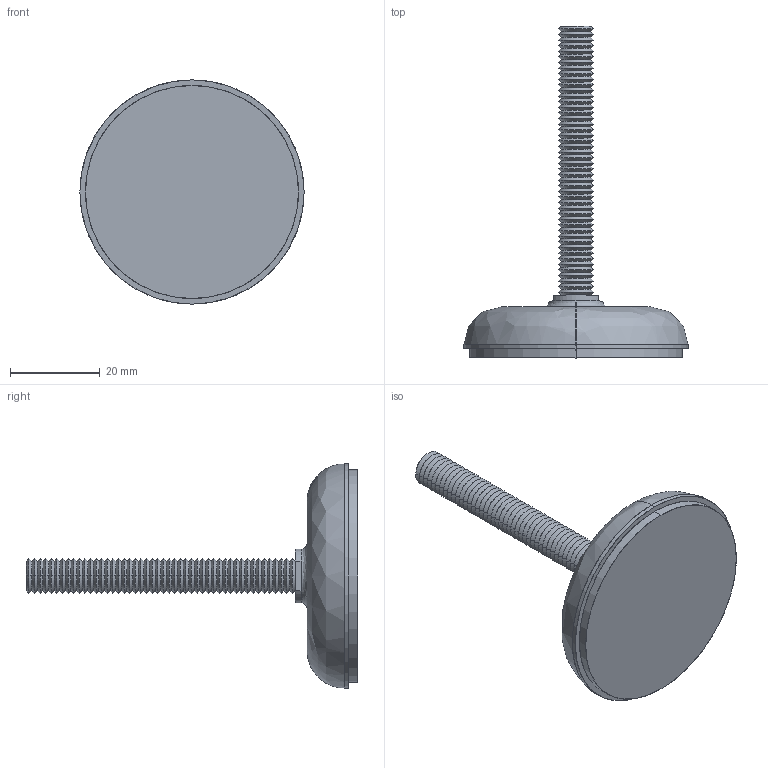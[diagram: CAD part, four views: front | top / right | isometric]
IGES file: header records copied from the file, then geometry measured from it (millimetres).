
Start section: SolidWorks IGES file using analytic representation for surfaces
Global section: file name: C:\Documents and Settings\IANO\Desktop\Temp File\Process pending\EXISTING\34780_v2\34780_v2_20170626_IGES\34780.W0088.igs; native system: SolidWorks 2009; preprocessor: SolidWorks 2009; author: IANO; date: 170626.122241; units: millimetre
Bounding box: 50 x 74 x 50 mm (x, y, z)
Surface area: 16912.9 mm2 (no closed solid volume)
Topology: 0 solids, 0 shells, 264 faces, 2002 edges, 2002 vertices
Faces by surface type: revolution 236, bspline 28
